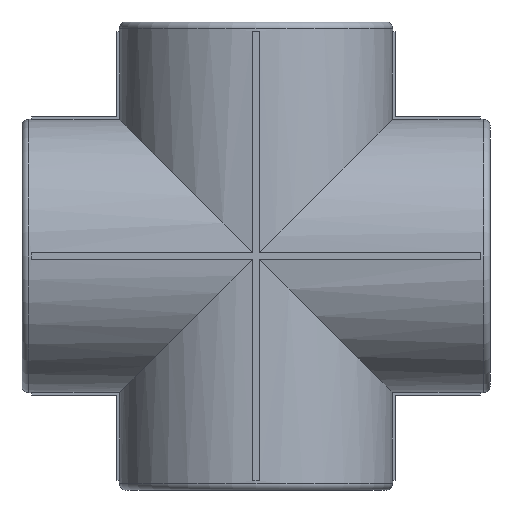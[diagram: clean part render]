
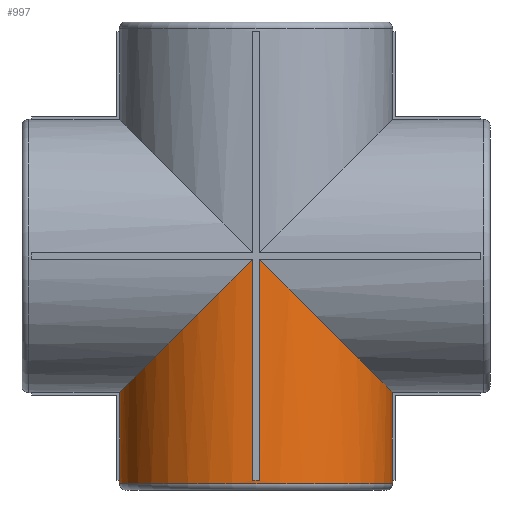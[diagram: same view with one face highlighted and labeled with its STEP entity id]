
A CAD part, front view. The second image highlights one B-rep face of the part: STEP entity #997.
In plain terms, the highlighted cylindrical face has radius 21.5 mm (diameter 43 mm), a partial arc.
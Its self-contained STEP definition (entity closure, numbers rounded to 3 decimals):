
#14 = CARTESIAN_POINT ( 'NONE',  ( -21.5, 0., -35.85 ) ) ;
#19 = ORIENTED_EDGE ( 'NONE', *, *, #2618, .T. ) ;
#115 = AXIS2_PLACEMENT_3D ( 'NONE', #2193, #520, #2176 ) ;
#118 = CARTESIAN_POINT ( 'NONE',  ( 21.5, 0., -35.35 ) ) ;
#154 = CARTESIAN_POINT ( 'NONE',  ( 21.212, -12.631, -21.212 ) ) ;
#179 = DIRECTION ( 'NONE',  ( 0., 0., -1. ) ) ;
#185 = LINE ( 'NONE', #1802, #1918 ) ;
#194 = CARTESIAN_POINT ( 'NONE',  ( -21.494, -0.5, -21.494 ) ) ;
#197 = EDGE_CURVE ( 'NONE', #2646, #620, #1239, .T. ) ;
#247 = CARTESIAN_POINT ( 'NONE',  ( -21.494, -0.5, -21.494 ) ) ;
#375 = VERTEX_POINT ( 'NONE', #1275 ) ;
#388 = CARTESIAN_POINT ( 'NONE',  ( 12.631, -21.212, -12.631 ) ) ;
#400 = VECTOR ( 'NONE', #179, 1000. ) ;
#405 = CARTESIAN_POINT ( 'NONE',  ( -0.5, -21.494, -0.5 ) ) ;
#453 = CARTESIAN_POINT ( 'NONE',  ( 21.494, -0.5, -21.494 ) ) ;
#492 = DIRECTION ( 'NONE',  ( 0., 0., -1. ) ) ;
#519 = DIRECTION ( 'NONE',  ( 0., 0., 1. ) ) ;
#520 = DIRECTION ( 'NONE',  ( 0., 0., -1. ) ) ;
#561 = LINE ( 'NONE', #786, #1766 ) ;
#586 = ORIENTED_EDGE ( 'NONE', *, *, #2613, .F. ) ;
#587 = CARTESIAN_POINT ( 'NONE',  ( -0.5, -21.494, 36.85 ) ) ;
#600 = CARTESIAN_POINT ( 'NONE',  ( -21.5, 0., 36.85 ) ) ;
#620 = VERTEX_POINT ( 'NONE', #2413 ) ;
#663 = CARTESIAN_POINT ( 'NONE',  ( 21.5, 0., 36.85 ) ) ;
#717 = CARTESIAN_POINT ( 'NONE',  ( -21.5, 0., -35.35 ) ) ;
#751 = DIRECTION ( 'NONE',  ( 0., 0., 1. ) ) ;
#761 = CARTESIAN_POINT ( 'NONE',  ( 21.5, 0., -35.85 ) ) ;
#773 = ORIENTED_EDGE ( 'NONE', *, *, #2466, .F. ) ;
#786 = CARTESIAN_POINT ( 'NONE',  ( 0.5, -21.494, 36.85 ) ) ;
#824 = CARTESIAN_POINT ( 'NONE',  ( -21.494, -0.5, -35.35 ) ) ;
#855 = ORIENTED_EDGE ( 'NONE', *, *, #197, .T. ) ;
#894 = VERTEX_POINT ( 'NONE', #453 ) ;
#910 = DIRECTION ( 'NONE',  ( 0., 0., 1. ) ) ;
#925 = VERTEX_POINT ( 'NONE', #1110 ) ;
#969 = DIRECTION ( 'NONE',  ( -1., 0., 0. ) ) ;
#990 = ORIENTED_EDGE ( 'NONE', *, *, #1789, .T. ) ;
#997 = ADVANCED_FACE ( 'NONE', ( #1522 ), #1684, .T. ) ;
#1091 = CARTESIAN_POINT ( 'NONE',  ( 21.494, -0.5, -21.494 ) ) ;
#1110 = CARTESIAN_POINT ( 'NONE',  ( -0.5, -21.494, -35.35 ) ) ;
#1158 = CARTESIAN_POINT ( 'NONE',  ( 0.5, -21.494, -0.5 ) ) ;
#1168 = CARTESIAN_POINT ( 'NONE',  ( 0., 0., -35.35 ) ) ;
#1175 = ORIENTED_EDGE ( 'NONE', *, *, #2446, .T. ) ;
#1187 = AXIS2_PLACEMENT_3D ( 'NONE', #2987, #1605, #2519 ) ;
#1208 = VERTEX_POINT ( 'NONE', #824 ) ;
#1239 = CIRCLE ( 'NONE', #2346, 21.5 ) ;
#1275 = CARTESIAN_POINT ( 'NONE',  ( 0.5, -21.494, -0.5 ) ) ;
#1323 = VERTEX_POINT ( 'NONE', #717 ) ;
#1392 = CIRCLE ( 'NONE', #2623, 21.5 ) ;
#1441 = DIRECTION ( 'NONE',  ( 0., 0., -1. ) ) ;
#1468 = LINE ( 'NONE', #587, #1874 ) ;
#1486 = CIRCLE ( 'NONE', #1187, 21.5 ) ;
#1507 = ORIENTED_EDGE ( 'NONE', *, *, #2860, .F. ) ;
#1522 = FACE_OUTER_BOUND ( 'NONE', #2260, .T. ) ;
#1601 = CARTESIAN_POINT ( 'NONE',  ( 0.5, -21.494, -35.35 ) ) ;
#1605 = DIRECTION ( 'NONE',  ( 0., 0., -1. ) ) ;
#1622 =( BOUNDED_CURVE ( )  B_SPLINE_CURVE ( 3, ( #247, #2827, #1885, #1899 ),
 .UNSPECIFIED., .F., .T. ) 
 B_SPLINE_CURVE_WITH_KNOTS ( ( 4, 4 ),
 ( 0.023, 1.548 ),
 .UNSPECIFIED. ) 
 CURVE ( )  GEOMETRIC_REPRESENTATION_ITEM ( )  RATIONAL_B_SPLINE_CURVE ( ( 1., 0.816, 0.816, 1. ) ) 
 REPRESENTATION_ITEM ( '' )  );
#1676 = VERTEX_POINT ( 'NONE', #14 ) ;
#1683 = LINE ( 'NONE', #1984, #2281 ) ;
#1684 = CYLINDRICAL_SURFACE ( 'NONE', #115, 21.5 ) ;
#1690 = DIRECTION ( 'NONE',  ( 1., 0., 0. ) ) ;
#1723 = ORIENTED_EDGE ( 'NONE', *, *, #2186, .T. ) ;
#1748 = ORIENTED_EDGE ( 'NONE', *, *, #2814, .T. ) ;
#1766 = VECTOR ( 'NONE', #1441, 1000. ) ;
#1770 = VECTOR ( 'NONE', #2952, 1000. ) ;
#1772 = AXIS2_PLACEMENT_3D ( 'NONE', #2875, #751, #1690 ) ;
#1789 = EDGE_CURVE ( 'NONE', #375, #2129, #561, .T. ) ;
#1802 = CARTESIAN_POINT ( 'NONE',  ( 21.494, -0.5, 36.85 ) ) ;
#1828 = LINE ( 'NONE', #663, #1770 ) ;
#1853 = DIRECTION ( 'NONE',  ( 1., 0., 0. ) ) ;
#1874 = VECTOR ( 'NONE', #2673, 1000. ) ;
#1885 = CARTESIAN_POINT ( 'NONE',  ( -12.631, -21.212, -12.631 ) ) ;
#1899 = CARTESIAN_POINT ( 'NONE',  ( -0.5, -21.494, -0.5 ) ) ;
#1918 = VECTOR ( 'NONE', #2752, 1000. ) ;
#1950 = VERTEX_POINT ( 'NONE', #761 ) ;
#1984 = CARTESIAN_POINT ( 'NONE',  ( -21.494, -0.5, 36.85 ) ) ;
#2055 = EDGE_CURVE ( 'NONE', #1208, #2103, #1683, .T. ) ;
#2088 = ORIENTED_EDGE ( 'NONE', *, *, #2216, .F. ) ;
#2103 = VERTEX_POINT ( 'NONE', #194 ) ;
#2129 = VERTEX_POINT ( 'NONE', #1601 ) ;
#2176 = DIRECTION ( 'NONE',  ( -1., 0., 0. ) ) ;
#2186 = EDGE_CURVE ( 'NONE', #1323, #1676, #2552, .T. ) ;
#2193 = CARTESIAN_POINT ( 'NONE',  ( 0., 0., 36.85 ) ) ;
#2216 = EDGE_CURVE ( 'NONE', #2646, #1950, #1828, .T. ) ;
#2223 = EDGE_CURVE ( 'NONE', #2103, #2457, #1622, .T. ) ;
#2260 = EDGE_LOOP ( 'NONE', ( #2088, #855, #1507, #773, #990, #1748, #19, #2570, #2675, #586, #1723, #1175 ) ) ;
#2266 =( BOUNDED_CURVE ( )  B_SPLINE_CURVE ( 3, ( #1158, #388, #154, #1091 ),
 .UNSPECIFIED., .F., .T. ) 
 B_SPLINE_CURVE_WITH_KNOTS ( ( 4, 4 ),
 ( 4.736, 6.26 ),
 .UNSPECIFIED. ) 
 CURVE ( )  GEOMETRIC_REPRESENTATION_ITEM ( )  RATIONAL_B_SPLINE_CURVE ( ( 1., 0.816, 0.816, 1. ) ) 
 REPRESENTATION_ITEM ( '' )  );
#2281 = VECTOR ( 'NONE', #519, 1000. ) ;
#2346 = AXIS2_PLACEMENT_3D ( 'NONE', #1168, #492, #969 ) ;
#2413 = CARTESIAN_POINT ( 'NONE',  ( 21.494, -0.5, -35.35 ) ) ;
#2446 = EDGE_CURVE ( 'NONE', #1676, #1950, #1392, .T. ) ;
#2457 = VERTEX_POINT ( 'NONE', #405 ) ;
#2466 = EDGE_CURVE ( 'NONE', #375, #894, #2266, .T. ) ;
#2519 = DIRECTION ( 'NONE',  ( -1., 0., 0. ) ) ;
#2552 = LINE ( 'NONE', #600, #400 ) ;
#2570 = ORIENTED_EDGE ( 'NONE', *, *, #2223, .F. ) ;
#2613 = EDGE_CURVE ( 'NONE', #1323, #1208, #2723, .T. ) ;
#2618 = EDGE_CURVE ( 'NONE', #925, #2457, #1468, .T. ) ;
#2623 = AXIS2_PLACEMENT_3D ( 'NONE', #2792, #910, #1853 ) ;
#2646 = VERTEX_POINT ( 'NONE', #118 ) ;
#2673 = DIRECTION ( 'NONE',  ( 0., 0., 1. ) ) ;
#2675 = ORIENTED_EDGE ( 'NONE', *, *, #2055, .F. ) ;
#2723 = CIRCLE ( 'NONE', #1772, 21.5 ) ;
#2752 = DIRECTION ( 'NONE',  ( 0., 0., -1. ) ) ;
#2792 = CARTESIAN_POINT ( 'NONE',  ( 0., 0., -35.85 ) ) ;
#2814 = EDGE_CURVE ( 'NONE', #2129, #925, #1486, .T. ) ;
#2827 = CARTESIAN_POINT ( 'NONE',  ( -21.212, -12.631, -21.212 ) ) ;
#2860 = EDGE_CURVE ( 'NONE', #894, #620, #185, .T. ) ;
#2875 = CARTESIAN_POINT ( 'NONE',  ( 0., 0., -35.35 ) ) ;
#2952 = DIRECTION ( 'NONE',  ( 0., 0., -1. ) ) ;
#2987 = CARTESIAN_POINT ( 'NONE',  ( 0., 0., -35.35 ) ) ;
